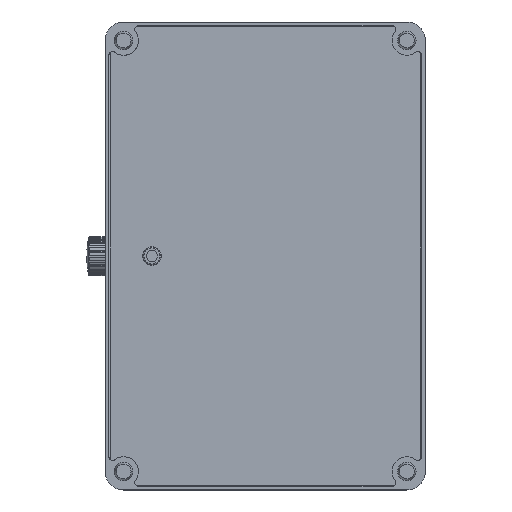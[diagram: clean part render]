
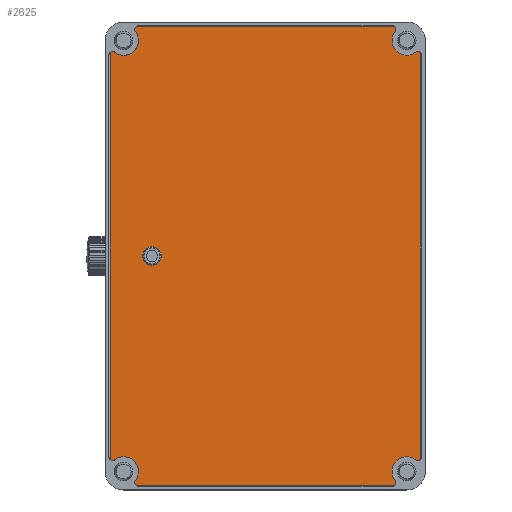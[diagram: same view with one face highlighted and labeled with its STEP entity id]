
A CAD part, top view. The second image highlights one B-rep face of the part: STEP entity #2625.
In plain terms, the highlighted planar face has unit normal (0, 0, 1).
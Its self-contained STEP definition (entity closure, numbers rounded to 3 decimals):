
#1436=DIRECTION('',(0.,-1.,0.));
#1437=VECTOR('',#1436,330.472);
#1438=CARTESIAN_POINT('',(-406.905,824.773,344.));
#1439=LINE('',#1438,#1437);
#1444=CARTESIAN_POINT('',(-429.905,843.537,344.));
#1445=DIRECTION('',(0.,0.,1.));
#1446=DIRECTION('',(0.8,-0.6,0.));
#1447=AXIS2_PLACEMENT_3D('',#1444,#1445,#1446);
#1449=CARTESIAN_POINT('',(-417.905,834.537,344.));
#1450=DIRECTION('',(0.,0.,-1.));
#1451=DIRECTION('',(-1.,0.,0.));
#1452=AXIS2_PLACEMENT_3D('',#1449,#1450,#1451);
#1454=CARTESIAN_POINT('',(-417.905,834.537,344.));
#1455=DIRECTION('',(0.,0.,-1.));
#1456=DIRECTION('',(0.6,-0.8,0.));
#1457=AXIS2_PLACEMENT_3D('',#1454,#1455,#1456);
#1459=CARTESIAN_POINT('',(-408.905,822.537,344.));
#1460=DIRECTION('',(0.,0.,1.));
#1461=DIRECTION('',(0.667,0.745,0.));
#1462=AXIS2_PLACEMENT_3D('',#1459,#1460,#1461);
#1464=CARTESIAN_POINT('',(-408.905,496.537,344.));
#1465=DIRECTION('',(0.,0.,1.));
#1466=DIRECTION('',(-0.6,-0.8,0.));
#1467=AXIS2_PLACEMENT_3D('',#1464,#1465,#1466);
#1469=CARTESIAN_POINT('',(-417.905,484.537,344.));
#1470=DIRECTION('',(0.,0.,-1.));
#1471=DIRECTION('',(-1.,0.,0.));
#1472=AXIS2_PLACEMENT_3D('',#1469,#1470,#1471);
#1474=CARTESIAN_POINT('',(-417.905,484.537,344.));
#1475=DIRECTION('',(0.,0.,-1.));
#1476=DIRECTION('',(-0.8,-0.6,0.));
#1477=AXIS2_PLACEMENT_3D('',#1474,#1475,#1476);
#1479=CARTESIAN_POINT('',(-429.905,475.537,344.));
#1480=DIRECTION('',(0.,0.,1.));
#1481=DIRECTION('',(0.745,-0.667,0.));
#1482=AXIS2_PLACEMENT_3D('',#1479,#1480,#1481);
#1484=CARTESIAN_POINT('',(-635.905,475.537,344.));
#1485=DIRECTION('',(0.,0.,1.));
#1486=DIRECTION('',(-1.,0.,0.));
#1487=AXIS2_PLACEMENT_3D('',#1484,#1485,#1486);
#1489=CARTESIAN_POINT('',(-635.905,475.537,344.));
#1490=DIRECTION('',(0.,0.,1.));
#1491=DIRECTION('',(-0.8,0.6,0.));
#1492=AXIS2_PLACEMENT_3D('',#1489,#1490,#1491);
#1494=CARTESIAN_POINT('',(-647.905,484.537,344.));
#1495=DIRECTION('',(0.,0.,-1.));
#1496=DIRECTION('',(-0.6,0.8,0.));
#1497=AXIS2_PLACEMENT_3D('',#1494,#1495,#1496);
#1499=CARTESIAN_POINT('',(-656.905,496.537,344.));
#1500=DIRECTION('',(0.,0.,1.));
#1501=DIRECTION('',(-0.667,-0.745,0.));
#1502=AXIS2_PLACEMENT_3D('',#1499,#1500,#1501);
#1504=CARTESIAN_POINT('',(-656.905,822.537,344.));
#1505=DIRECTION('',(0.,0.,1.));
#1506=DIRECTION('',(0.6,0.8,0.));
#1507=AXIS2_PLACEMENT_3D('',#1504,#1505,#1506);
#1509=CARTESIAN_POINT('',(-647.905,834.537,344.));
#1510=DIRECTION('',(0.,0.,-1.));
#1511=DIRECTION('',(0.8,0.6,0.));
#1512=AXIS2_PLACEMENT_3D('',#1509,#1510,#1511);
#1514=CARTESIAN_POINT('',(-635.905,843.537,344.));
#1515=DIRECTION('',(0.,0.,1.));
#1516=DIRECTION('',(-1.,0.,0.));
#1517=AXIS2_PLACEMENT_3D('',#1514,#1515,#1516);
#1519=CARTESIAN_POINT('',(-635.905,843.537,344.));
#1520=DIRECTION('',(0.,0.,1.));
#1521=DIRECTION('',(-0.745,0.667,0.));
#1522=AXIS2_PLACEMENT_3D('',#1519,#1520,#1521);
#1524=CARTESIAN_POINT('',(-624.905,659.537,344.));
#1525=DIRECTION('',(0.,0.,-1.));
#1526=DIRECTION('',(1.,0.,0.));
#1527=AXIS2_PLACEMENT_3D('',#1524,#1525,#1526);
#1529=CARTESIAN_POINT('',(-624.905,659.537,344.));
#1530=DIRECTION('',(0.,0.,-1.));
#1531=DIRECTION('',(-1.,0.,0.));
#1532=AXIS2_PLACEMENT_3D('',#1529,#1530,#1531);
#1538=DIRECTION('',(1.,0.,0.));
#1539=VECTOR('',#1538,210.472);
#1540=CARTESIAN_POINT('',(-638.141,845.537,344.));
#1541=LINE('',#1540,#1539);
#1662=DIRECTION('',(0.,1.,0.));
#1663=VECTOR('',#1662,330.472);
#1664=CARTESIAN_POINT('',(-658.905,494.301,344.));
#1665=LINE('',#1664,#1663);
#1730=DIRECTION('',(-1.,0.,0.));
#1731=VECTOR('',#1730,210.472);
#1732=CARTESIAN_POINT('',(-427.669,473.537,344.));
#1733=LINE('',#1732,#1731);
#1860=CARTESIAN_POINT('',(-638.141,845.537,344.));
#1861=CARTESIAN_POINT('',(-427.669,845.537,344.));
#1862=VERTEX_POINT('',#1860);
#1863=VERTEX_POINT('',#1861);
#1864=CARTESIAN_POINT('',(-638.905,843.537,344.));
#1865=VERTEX_POINT('',#1864);
#1866=CARTESIAN_POINT('',(-638.305,841.737,344.));
#1867=VERTEX_POINT('',#1866);
#1868=CARTESIAN_POINT('',(-655.105,824.937,344.));
#1869=VERTEX_POINT('',#1868);
#1870=CARTESIAN_POINT('',(-658.905,824.773,344.));
#1871=VERTEX_POINT('',#1870);
#1872=CARTESIAN_POINT('',(-658.905,494.301,344.));
#1873=VERTEX_POINT('',#1872);
#1874=CARTESIAN_POINT('',(-655.105,494.137,344.));
#1875=VERTEX_POINT('',#1874);
#1876=CARTESIAN_POINT('',(-638.305,477.337,344.));
#1877=VERTEX_POINT('',#1876);
#1878=CARTESIAN_POINT('',(-638.905,475.537,344.));
#1879=VERTEX_POINT('',#1878);
#1880=CARTESIAN_POINT('',(-638.141,473.537,344.));
#1881=VERTEX_POINT('',#1880);
#1882=CARTESIAN_POINT('',(-427.669,473.537,344.));
#1883=VERTEX_POINT('',#1882);
#1884=CARTESIAN_POINT('',(-427.505,477.337,344.));
#1885=VERTEX_POINT('',#1884);
#1886=CARTESIAN_POINT('',(-429.905,484.537,344.));
#1887=CARTESIAN_POINT('',(-410.705,494.137,344.));
#1888=VERTEX_POINT('',#1886);
#1889=VERTEX_POINT('',#1887);
#1890=CARTESIAN_POINT('',(-406.905,494.301,344.));
#1891=VERTEX_POINT('',#1890);
#1892=CARTESIAN_POINT('',(-406.905,824.773,344.));
#1893=VERTEX_POINT('',#1892);
#1894=CARTESIAN_POINT('',(-410.705,824.937,344.));
#1895=VERTEX_POINT('',#1894);
#1896=CARTESIAN_POINT('',(-429.905,834.537,344.));
#1897=CARTESIAN_POINT('',(-427.505,841.737,344.));
#1898=VERTEX_POINT('',#1896);
#1899=VERTEX_POINT('',#1897);
#1990=CARTESIAN_POINT('',(-619.905,659.537,344.));
#1992=VERTEX_POINT('',#1990);
#1994=CARTESIAN_POINT('',(-629.905,659.537,344.));
#1996=VERTEX_POINT('',#1994);
#2573=CARTESIAN_POINT('',(-402.905,849.537,344.));
#2574=DIRECTION('',(0.,0.,1.));
#2575=DIRECTION('',(1.,0.,0.));
#2576=AXIS2_PLACEMENT_3D('',#2573,#2574,#2575);
#2577=PLANE('',#2576);
#2579=ORIENTED_EDGE('',*,*,#2578,.T.);
#2581=ORIENTED_EDGE('',*,*,#2580,.F.);
#2583=ORIENTED_EDGE('',*,*,#2582,.F.);
#2585=ORIENTED_EDGE('',*,*,#2584,.F.);
#2587=ORIENTED_EDGE('',*,*,#2586,.F.);
#2588=ORIENTED_EDGE('',*,*,#2563,.T.);
#2590=ORIENTED_EDGE('',*,*,#2589,.F.);
#2592=ORIENTED_EDGE('',*,*,#2591,.F.);
#2594=ORIENTED_EDGE('',*,*,#2593,.F.);
#2596=ORIENTED_EDGE('',*,*,#2595,.F.);
#2598=ORIENTED_EDGE('',*,*,#2597,.T.);
#2600=ORIENTED_EDGE('',*,*,#2599,.F.);
#2602=ORIENTED_EDGE('',*,*,#2601,.F.);
#2604=ORIENTED_EDGE('',*,*,#2603,.F.);
#2606=ORIENTED_EDGE('',*,*,#2605,.F.);
#2608=ORIENTED_EDGE('',*,*,#2607,.T.);
#2610=ORIENTED_EDGE('',*,*,#2609,.F.);
#2612=ORIENTED_EDGE('',*,*,#2611,.F.);
#2614=ORIENTED_EDGE('',*,*,#2613,.F.);
#2616=ORIENTED_EDGE('',*,*,#2615,.F.);
#2617=EDGE_LOOP('',(#2579,#2581,#2583,#2585,#2587,#2588,#2590,#2592,#2594,#2596,
#2598,#2600,#2602,#2604,#2606,#2608,#2610,#2612,#2614,#2616));
#2618=FACE_OUTER_BOUND('',#2617,.F.);
#2620=ORIENTED_EDGE('',*,*,#2619,.F.);
#2622=ORIENTED_EDGE('',*,*,#2621,.F.);
#2623=EDGE_LOOP('',(#2620,#2622));
#2624=FACE_BOUND('',#2623,.F.);
#2625=ADVANCED_FACE('',(#2618,#2624),#2577,.T.);
#1448=CIRCLE('',#1447,3.);
#1453=CIRCLE('',#1452,12.);
#1458=CIRCLE('',#1457,12.);
#1463=CIRCLE('',#1462,3.);
#1468=CIRCLE('',#1467,3.);
#1473=CIRCLE('',#1472,12.);
#1478=CIRCLE('',#1477,12.);
#1483=CIRCLE('',#1482,3.);
#1488=CIRCLE('',#1487,3.);
#1493=CIRCLE('',#1492,3.);
#1498=CIRCLE('',#1497,12.);
#1503=CIRCLE('',#1502,3.);
#1508=CIRCLE('',#1507,3.);
#1513=CIRCLE('',#1512,12.);
#1518=CIRCLE('',#1517,3.);
#1523=CIRCLE('',#1522,3.);
#1528=CIRCLE('',#1527,5.);
#1533=CIRCLE('',#1532,5.);
#2563=EDGE_CURVE('',#1893,#1891,#1439,.T.);
#2578=EDGE_CURVE('',#1862,#1863,#1541,.T.);
#2580=EDGE_CURVE('',#1899,#1863,#1448,.T.);
#2582=EDGE_CURVE('',#1898,#1899,#1453,.T.);
#2584=EDGE_CURVE('',#1895,#1898,#1458,.T.);
#2586=EDGE_CURVE('',#1893,#1895,#1463,.T.);
#2589=EDGE_CURVE('',#1889,#1891,#1468,.T.);
#2591=EDGE_CURVE('',#1888,#1889,#1473,.T.);
#2593=EDGE_CURVE('',#1885,#1888,#1478,.T.);
#2595=EDGE_CURVE('',#1883,#1885,#1483,.T.);
#2597=EDGE_CURVE('',#1883,#1881,#1733,.T.);
#2599=EDGE_CURVE('',#1879,#1881,#1488,.T.);
#2601=EDGE_CURVE('',#1877,#1879,#1493,.T.);
#2603=EDGE_CURVE('',#1875,#1877,#1498,.T.);
#2605=EDGE_CURVE('',#1873,#1875,#1503,.T.);
#2607=EDGE_CURVE('',#1873,#1871,#1665,.T.);
#2609=EDGE_CURVE('',#1869,#1871,#1508,.T.);
#2611=EDGE_CURVE('',#1867,#1869,#1513,.T.);
#2613=EDGE_CURVE('',#1865,#1867,#1518,.T.);
#2615=EDGE_CURVE('',#1862,#1865,#1523,.T.);
#2619=EDGE_CURVE('',#1992,#1996,#1528,.T.);
#2621=EDGE_CURVE('',#1996,#1992,#1533,.T.);
